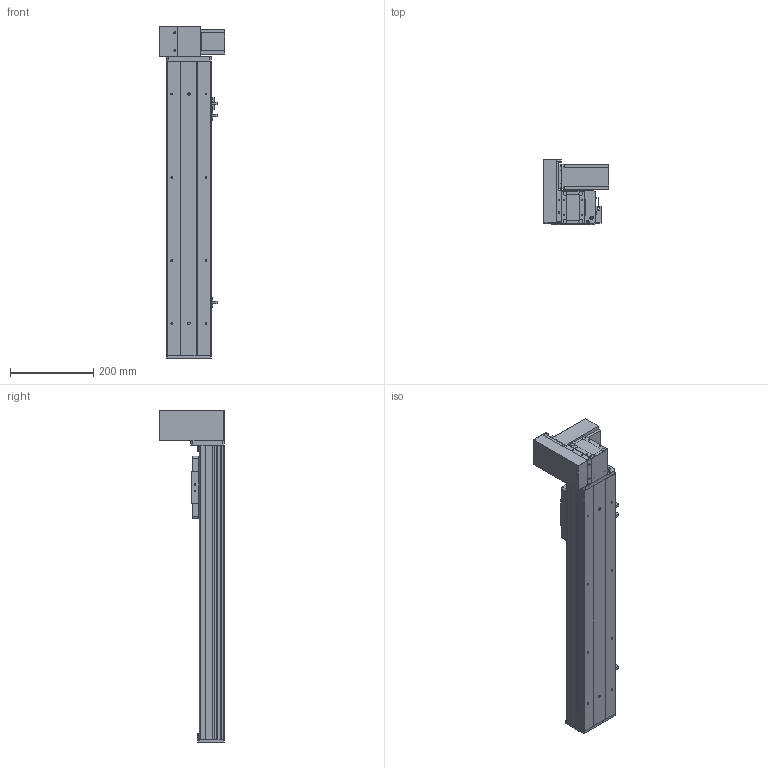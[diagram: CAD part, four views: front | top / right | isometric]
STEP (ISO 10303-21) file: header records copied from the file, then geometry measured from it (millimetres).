
FILE_DESCRIPTION (( 'STEP AP203' ), '1' );
FILE_NAME ('Y10CB-D90-S450-UL-P400W.STEP', '2020-02-16T07:06:49', ( '微软用户' ), ( '微软中国' ), 'SwSTEP 2.0', 'SolidWorks 2017', '' );
FILE_SCHEMA (( 'CONFIG_CONTROL_DESIGN' ));
Length unit declared in the file: millimetre
Products named in the file (18): Y100-135俋离換覜ん--; 0B-源倛裔啣; Y10B-耜蚾蟀諉啣----; 0B-埴倛裔啣; 00B-俋欶BM--; 10CB-詩湍-; Y10B--々湍喘謫眊--666; Y10CB- 掛极耜裔啣-毀---; 0CB-雄赽釱---; Y10CB-D90-S450-UL-P400W; Y10C---詩湍揤啣; 0Cb-俋欶---; 10CB9-掛极; Y10B-々湍喘謫眊楊擘啣--; 10CB-耜裔; 0B-萇儂楊擘啣; Y135C-陔俋离換覜結え-; san松下电机400不带刹车----
Assembly tree (21 placements, depth 2):
  Y10CB-D90-S450-UL-P400W
    0CB-雄赽釱---
    0Cb-俋欶---
    Y10B-々湍喘謫眊楊擘啣--
    0B-萇儂楊擘啣
    san松下电机400不带刹车----
    0B-源倛裔啣
    0B-埴倛裔啣
    10CB-詩湍-
    Y10CB- 掛极耜裔啣-毀---  x2
    Y10C---詩湍揤啣  x2
    10CB9-掛极
    10CB-耜裔
    Y135C-陔俋离換覜結え-
    Y100-135俋离換覜ん--  x3
    Y10B-耜蚾蟀諉啣----
    00B-俋欶BM--
    Y10B--々湍喘謫眊--666
Bounding box: 157 x 155.5 x 796 mm (x, y, z)
Volume: 2176232.2 mm3; surface area: 927299.4 mm2
Topology: 21 solids, 21 shells, 954 faces, 2523 edges, 1658 vertices
Faces by surface type: plane 471, cylinder 459, cone 24
Entity records: 29412 total; most frequent: CARTESIAN_POINT 5025, DIRECTION 4794, ORIENTED_EDGE 4516, EDGE_CURVE 2258, AXIS2_PLACEMENT_3D 1717, VERTEX_POINT 1484, LINE 1360, VECTOR 1360
